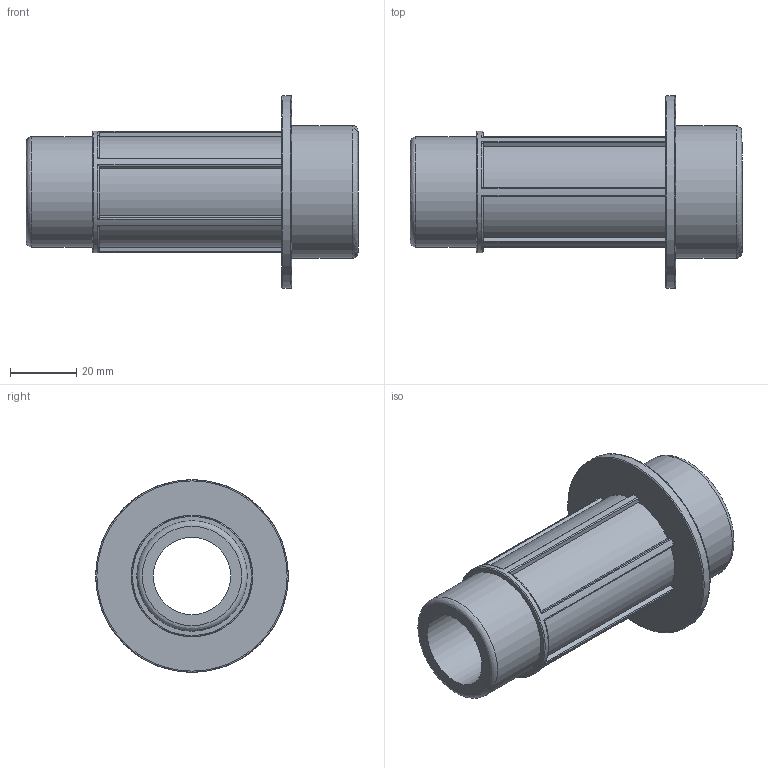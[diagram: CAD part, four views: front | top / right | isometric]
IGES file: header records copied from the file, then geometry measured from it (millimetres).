
Global section: file name: 078901040010.ipt; native system: Autodesk Inventor 2015; preprocessor: unknown; author: KIM; date: 20180409.130853; units: millimetre
Bounding box: 100 x 58 x 58 mm (x, y, z)
Volume: 59034.5 mm3; surface area: 23950.8 mm2
Topology: 1 solids, 1 shells, 57 faces, 163 edges, 111 vertices
Faces by surface type: plane 23, cylinder 22, revolution 12
Full cylindrical faces by diameter (mm): 33.249 x1, 36.574 x1, 40 x1, 58 x1
